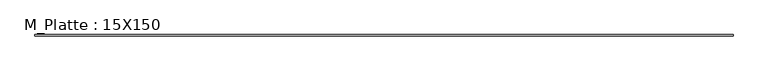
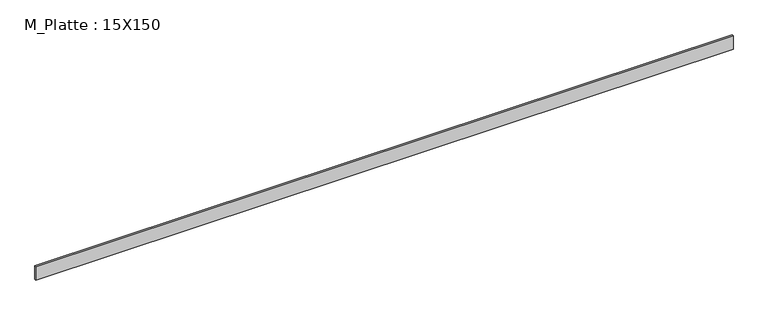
"""IFC4 building model written with IfcOpenShell, lengths in millimetres: beam geometry, M_Platte : 15X150."""

from ifc_helpers import new_model, si_unit, frame, origin, place, context, project, spatial, polyline, outline, extrude, source, transform, mapped, element, save


def m_platte_15x150_a1af23a7(model_context):
    return source(origin(), model_context, "Body", "SweptSolid", [
        extrude(outline(polyline([(3693.0520062, 7.5), (3693.0520062, -7.5), (-3693.0520062, -7.5), (-3693.0520062, 7.5), (3693.0520062, 7.5)])), frame((0.0, 0.0, -75.0), z_axis=(0.0, 0.0, 1.0), x_axis=(1.0, 0.0, 0.0)), (0.0, 0.0, 1.0), 150.0),
    ])


if __name__ == "__main__":
    model = new_model("IFC4")
    model_context = context("Model", 3, world=origin())
    ifc_project = project(units=[si_unit("LENGTHUNIT", "METRE", prefix="MILLI")], contexts=[model_context])
    site = spatial("IfcSite", under=ifc_project)
    building = spatial("IfcBuilding", under=site)
    placement = place(None, origin())
    m_platte_15x150_shape = m_platte_15x150_a1af23a7(model_context)
    element("IfcBeam", 1, ObjectType="M_Platte : 15X150", at=placement, inside=building, context=model_context, shape_type="MappedRepresentation", body=[
        mapped(m_platte_15x150_shape, transform((0.0, 0.0, 0.0), x_axis=(1.0, 0.0, 0.0), y_axis=(0.0, 1.0, 0.0), z_axis=(0.0, 0.0, 1.0))),
    ])
    save(model, "model.ifc")
